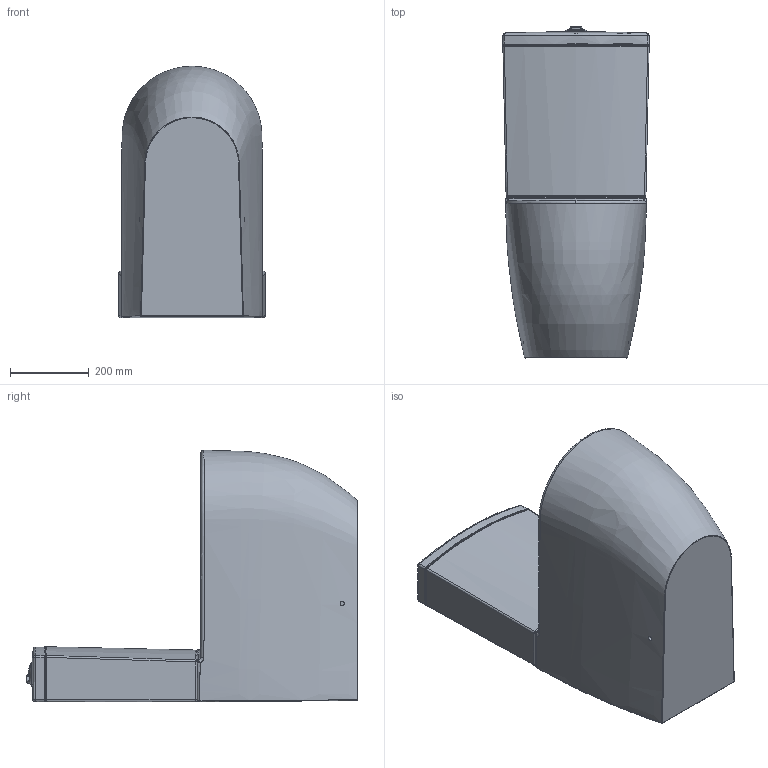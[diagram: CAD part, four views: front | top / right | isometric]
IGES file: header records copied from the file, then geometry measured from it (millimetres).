
Start section: SolidWorks IGES file using NURBS representation for surfaces
Global section: file name: D:\JÚLIO\#1# PRODUTOS\SÉRIES\137_SaniBold\137022 - sanita compacta dp\biblioteca 3D\137022_igs.IGS; native system: SolidWorks 2018; preprocessor: SolidWorks 2018; author: Julio; date: 180702.152714; units: millimetre
Bounding box: 372.36 x 844.63 x 639.97 mm (x, y, z)
Surface area: 1769228.1 mm2 (no closed solid volume)
Topology: 0 solids, 0 shells, 551 faces, 6575 edges, 6570 vertices
Faces by surface type: bspline 551
